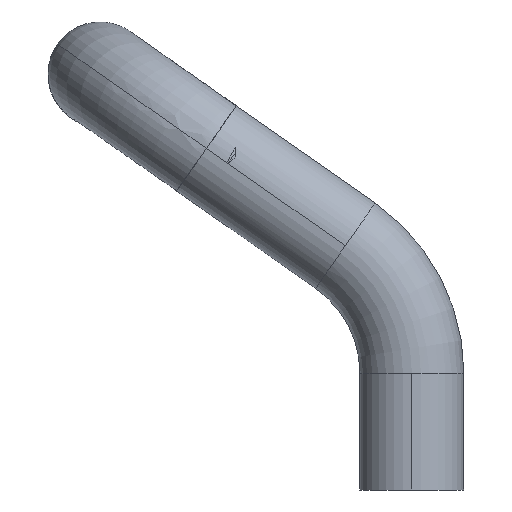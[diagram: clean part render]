
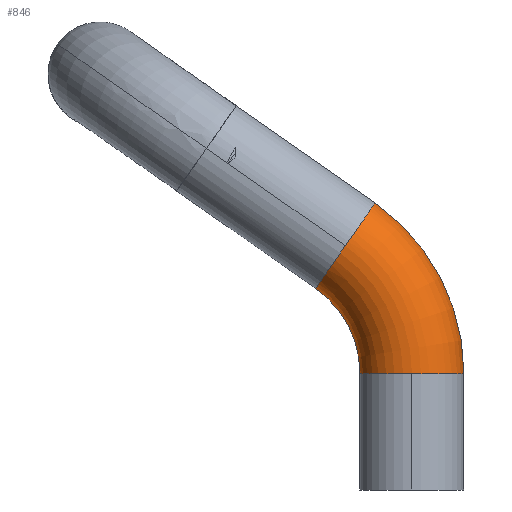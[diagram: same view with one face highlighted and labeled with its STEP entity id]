
A CAD part, left-side view. The second image highlights one B-rep face of the part: STEP entity #846.
In plain terms, the highlighted toroidal (fillet/blend) face has major radius 15 mm and minor radius 5 mm.
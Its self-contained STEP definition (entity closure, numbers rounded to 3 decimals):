
#44 = CARTESIAN_POINT ( 'NONE',  ( -123.998, 4.638, 25.997 ) ) ;
#63 = CARTESIAN_POINT ( 'NONE',  ( -124.369, 4.956, 25.543 ) ) ;
#72 = CIRCLE ( 'NONE', #986, 5. ) ;
#102 = DIRECTION ( 'NONE',  ( 0., 0., -1. ) ) ;
#182 = DIRECTION ( 'NONE',  ( 0., -1., 0. ) ) ;
#232 = VERTEX_POINT ( 'NONE', #1839 ) ;
#268 = CARTESIAN_POINT ( 'NONE',  ( -123.073, 4.107, 26.755 ) ) ;
#296 = CARTESIAN_POINT ( 'NONE',  ( -123.073, 8.698, 20.208 ) ) ;
#312 = CARTESIAN_POINT ( 'NONE',  ( -120., 9.273, 19.388 ) ) ;
#334 = EDGE_CURVE ( 'NONE', #1766, #232, #391, .T. ) ;
#391 = B_SPLINE_CURVE_WITH_KNOTS ( 'NONE', 3,
 ( #1033, #527, #2259, #586, #1804, #296, #1473, #2705, #727, #312 ),
 .UNSPECIFIED., .F., .F.,
 ( 4, 2, 2, 2, 4 ),
 ( 0., 0.25, 0.5, 0.75, 1. ),
 .UNSPECIFIED. ) ;
#511 = EDGE_LOOP ( 'NONE', ( #1336, #1638, #2420, #1640, #1140, #2057 ) ) ;
#527 = CARTESIAN_POINT ( 'NONE',  ( -125., 6.78, 22.947 ) ) ;
#538 = CARTESIAN_POINT ( 'NONE',  ( -120.654, 3.532, 27.576 ) ) ;
#577 = EDGE_CURVE ( 'NONE', #1683, #602, #72, .T. ) ;
#586 = CARTESIAN_POINT ( 'NONE',  ( -124.369, 7.849, 21.421 ) ) ;
#602 = VERTEX_POINT ( 'NONE', #2202 ) ;
#648 = EDGE_CURVE ( 'NONE', #2778, #1766, #1677, .T. ) ;
#658 = CARTESIAN_POINT ( 'NONE',  ( -120., 15., 11.19 ) ) ;
#727 = CARTESIAN_POINT ( 'NONE',  ( -120.655, 9.273, 19.387 ) ) ;
#768 = CARTESIAN_POINT ( 'NONE',  ( -120., 15., 11.19 ) ) ;
#835 = CIRCLE ( 'NONE', #1906, 10. ) ;
#846 = ADVANCED_FACE ( 'NONE', ( #2621 ), #2120, .T. ) ;
#888 = CIRCLE ( 'NONE', #2511, 5. ) ;
#898 = AXIS2_PLACEMENT_3D ( 'NONE', #2483, #1765, #2661 ) ;
#986 = AXIS2_PLACEMENT_3D ( 'NONE', #1481, #1260, #182 ) ;
#1020 = CARTESIAN_POINT ( 'NONE',  ( -125., 6.405, 23.483 ) ) ;
#1033 = CARTESIAN_POINT ( 'NONE',  ( -125., 6.405, 23.483 ) ) ;
#1138 = EDGE_CURVE ( 'NONE', #2300, #232, #835, .T. ) ;
#1140 = ORIENTED_EDGE ( 'NONE', *, *, #2311, .T. ) ;
#1260 = DIRECTION ( 'NONE',  ( 0., 0., 1. ) ) ;
#1320 = DIRECTION ( 'NONE',  ( 0., 0., 1. ) ) ;
#1336 = ORIENTED_EDGE ( 'NONE', *, *, #2818, .F. ) ;
#1360 = CIRCLE ( 'NONE', #2751, 20. ) ;
#1473 = CARTESIAN_POINT ( 'NONE',  ( -122.518, 8.91, 19.904 ) ) ;
#1481 = CARTESIAN_POINT ( 'NONE',  ( -120., 0., 11.19 ) ) ;
#1588 = DIRECTION ( 'NONE',  ( 0., 0., -1. ) ) ;
#1635 = CARTESIAN_POINT ( 'NONE',  ( -120., 5., 11.19 ) ) ;
#1638 = ORIENTED_EDGE ( 'NONE', *, *, #648, .T. ) ;
#1640 = ORIENTED_EDGE ( 'NONE', *, *, #1138, .F. ) ;
#1677 = B_SPLINE_CURVE_WITH_KNOTS ( 'NONE', 3,
 ( #1835, #538, #2240, #2294, #268, #44, #63, #1782, #2683, #1020 ),
 .UNSPECIFIED., .F., .F.,
 ( 4, 2, 2, 2, 4 ),
 ( 0., 0.25, 0.5, 0.75, 1. ),
 .UNSPECIFIED. ) ;
#1683 = VERTEX_POINT ( 'NONE', #2093 ) ;
#1765 = DIRECTION ( 'NONE',  ( 1., 0., 0. ) ) ;
#1766 = VERTEX_POINT ( 'NONE', #1772 ) ;
#1772 = CARTESIAN_POINT ( 'NONE',  ( -125., 6.405, 23.483 ) ) ;
#1782 = CARTESIAN_POINT ( 'NONE',  ( -124.87, 5.65, 24.552 ) ) ;
#1804 = CARTESIAN_POINT ( 'NONE',  ( -123.998, 8.167, 20.966 ) ) ;
#1835 = CARTESIAN_POINT ( 'NONE',  ( -120., 3.532, 27.576 ) ) ;
#1839 = CARTESIAN_POINT ( 'NONE',  ( -120., 9.273, 19.388 ) ) ;
#1906 = AXIS2_PLACEMENT_3D ( 'NONE', #768, #2525, #102 ) ;
#1927 = DIRECTION ( 'NONE',  ( 0., -1., 0. ) ) ;
#2057 = ORIENTED_EDGE ( 'NONE', *, *, #577, .T. ) ;
#2093 = CARTESIAN_POINT ( 'NONE',  ( -125., 0., 11.19 ) ) ;
#2120 = TOROIDAL_SURFACE ( 'NONE', #898, 15., 5. ) ;
#2202 = CARTESIAN_POINT ( 'NONE',  ( -120., -5., 11.19 ) ) ;
#2228 = CARTESIAN_POINT ( 'NONE',  ( -120., 0., 11.19 ) ) ;
#2240 = CARTESIAN_POINT ( 'NONE',  ( -121.309, 3.607, 27.469 ) ) ;
#2259 = CARTESIAN_POINT ( 'NONE',  ( -124.87, 7.156, 22.411 ) ) ;
#2294 = CARTESIAN_POINT ( 'NONE',  ( -122.518, 3.894, 27.059 ) ) ;
#2300 = VERTEX_POINT ( 'NONE', #1635 ) ;
#2311 = EDGE_CURVE ( 'NONE', #2300, #1683, #888, .T. ) ;
#2419 = DIRECTION ( 'NONE',  ( 1., 0., 0. ) ) ;
#2420 = ORIENTED_EDGE ( 'NONE', *, *, #334, .T. ) ;
#2483 = CARTESIAN_POINT ( 'NONE',  ( -120., 15., 11.19 ) ) ;
#2511 = AXIS2_PLACEMENT_3D ( 'NONE', #2228, #1320, #1927 ) ;
#2525 = DIRECTION ( 'NONE',  ( -1., 0., 0. ) ) ;
#2621 = FACE_OUTER_BOUND ( 'NONE', #511, .T. ) ;
#2622 = CARTESIAN_POINT ( 'NONE',  ( -120., 3.532, 27.576 ) ) ;
#2661 = DIRECTION ( 'NONE',  ( 0., 0., -1. ) ) ;
#2683 = CARTESIAN_POINT ( 'NONE',  ( -125., 6.025, 24.016 ) ) ;
#2705 = CARTESIAN_POINT ( 'NONE',  ( -121.309, 9.198, 19.494 ) ) ;
#2751 = AXIS2_PLACEMENT_3D ( 'NONE', #658, #2419, #1588 ) ;
#2778 = VERTEX_POINT ( 'NONE', #2622 ) ;
#2818 = EDGE_CURVE ( 'NONE', #2778, #602, #1360, .T. ) ;
